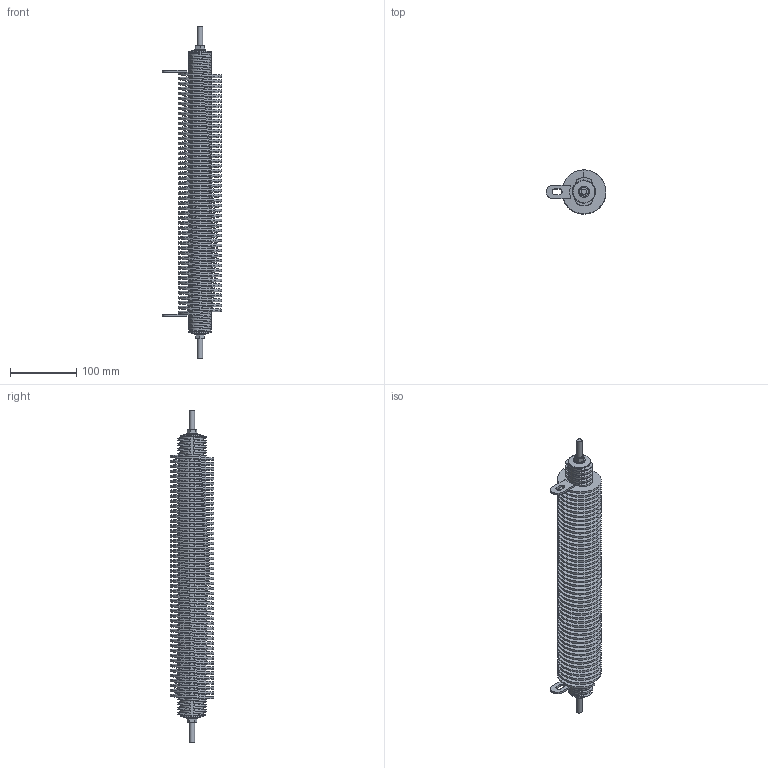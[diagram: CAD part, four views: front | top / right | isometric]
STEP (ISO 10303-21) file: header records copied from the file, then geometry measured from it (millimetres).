
FILE_DESCRIPTION(/* description */ ('RNT STANDARD TUBO FILETTATO'),/* implementation_level */ '2;1');
FILE_NAME(/* name */ 'C:\_Vault\Dati\CATALOGO\RNT\RNT TUBO FILETTATO\RNT 1100.stp',/* time_stamp */ '2023-05-16T14:54:22+02:00',/* author */ ('claudio'),/* organization */ ('Fairfild Srl'),/* preprocessor_version */ 'ST-DEVELOPER v18.1',/* originating_system */ 'Autodesk Inventor 2022',/* authorisation */ '');
FILE_SCHEMA (('AUTOMOTIVE_DESIGN { 1 0 10303 214 3 1 1 }'));
Length unit declared in the file: millimetre
Products named in the file (10): RNT STANDARD TUBO FILETTATO; 550072001500300000; 70NT24D042419000SX; 84NT70003702000CA0; 06M008000A27500000; 580080003313M00100; CONICA D34_12; 600008000A29200030; 28M008000A28800000; 960080D01200843900
Assembly tree (16 placements, depth 2):
  RNT STANDARD TUBO FILETTATO
    550072001500300000
    70NT24D042419000SX
    84NT70003702000CA0  x2
    06M008000A27500000
    580080003313M00100  x4
    CONICA D34_12  x2
    600008000A29200030  x2
    28M008000A28800000  x2
    960080D01200843900
Bounding box: 89.99 x 66.04 x 500 mm (x, y, z)
Volume: 763501.5 mm3; surface area: 427561.6 mm2
Topology: 16 solids, 16 shells, 1567 faces, 4582 edges, 3043 vertices
Faces by surface type: cylinder 803, bspline 453, plane 275, cone 36
Full cylindrical faces by diameter (mm): 6.647 x2, 8 x1, 8.4 x2, 8.5 x1, 12.5 x1, 13 x4, 13.5 x1, 17 x2, 33 x4, 36 x44, 66 x47
Entity records: 126202 total; most frequent: CARTESIAN_POINT 91539, ORIENTED_EDGE 8940, EDGE_CURVE 4470, DIRECTION 3567, B_SPLINE_CURVE_WITH_KNOTS 3110, VERTEX_POINT 2974, EDGE_LOOP 1524, FACE_OUTER_BOUND 1512
